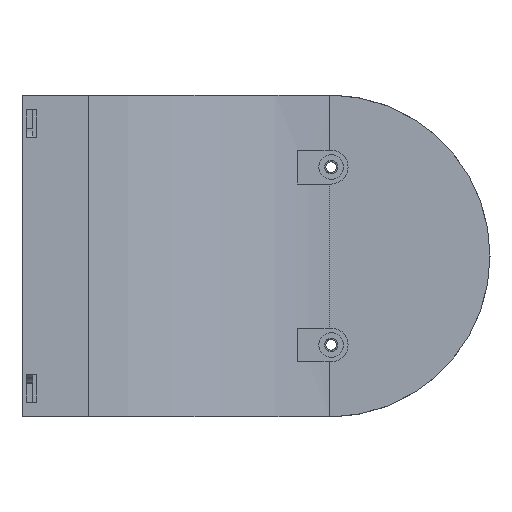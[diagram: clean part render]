
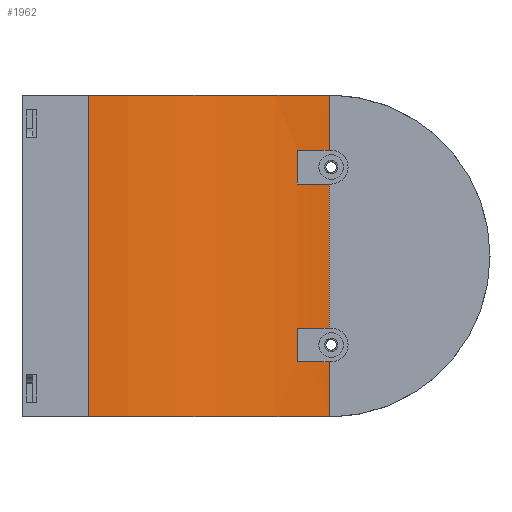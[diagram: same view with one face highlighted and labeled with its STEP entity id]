
A CAD part, front view. The second image highlights one B-rep face of the part: STEP entity #1962.
In plain terms, the highlighted cylindrical face has radius 77.442 mm (diameter 154.885 mm), a partial arc.
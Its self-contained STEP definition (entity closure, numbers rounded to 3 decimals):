
#176 = EDGE_CURVE ( 'NONE', #6173, #6765, #853, .T. ) ;
#847 = CARTESIAN_POINT ( 'NONE',  ( 73.5, -93.942, 17. ) ) ;
#853 = CIRCLE ( 'NONE', #902, 77.442 ) ;
#894 = DIRECTION ( 'NONE',  ( 1., 0., 0. ) ) ;
#895 = DIRECTION ( 'NONE',  ( 0., 0., 1. ) ) ;
#902 = AXIS2_PLACEMENT_3D ( 'NONE', #847, #895, #894 ) ;
#1377 = VERTEX_POINT ( 'NONE', #2527 ) ;
#1661 = EDGE_CURVE ( 'NONE', #2013, #1377, #2517, .T. ) ;
#1685 = CYLINDRICAL_SURFACE ( 'NONE', #1690, 77.442 ) ;
#1689 = CARTESIAN_POINT ( 'NONE',  ( 73.5, -93.942, -38. ) ) ;
#1690 = AXIS2_PLACEMENT_3D ( 'NONE', #1689, #1940, #1926 ) ;
#1802 = VERTEX_POINT ( 'NONE', #2573 ) ;
#1926 = DIRECTION ( 'NONE',  ( 1., 0., 0. ) ) ;
#1940 = DIRECTION ( 'NONE',  ( 0., 0., 1. ) ) ;
#1949 = ORIENTED_EDGE ( 'NONE', *, *, #176, .T. ) ;
#1953 = EDGE_CURVE ( 'NONE', #1957, #2013, #2621, .T. ) ;
#1956 = EDGE_CURVE ( 'NONE', #1958, #1957, #2614, .T. ) ;
#1957 = VERTEX_POINT ( 'NONE', #2574 ) ;
#1958 = VERTEX_POINT ( 'NONE', #2605 ) ;
#1959 = VERTEX_POINT ( 'NONE', #2609 ) ;
#1960 = ORIENTED_EDGE ( 'NONE', *, *, #1984, .T. ) ;
#1961 = ORIENTED_EDGE ( 'NONE', *, *, #1963, .T. ) ;
#1962 = ADVANCED_FACE ( 'NONE', ( #2624 ), #1685, .F. ) ;
#1963 = EDGE_CURVE ( 'NONE', #1377, #6173, #2332, .T. ) ;
#1964 = EDGE_LOOP ( 'NONE', ( #1973, #1968, #1961, #1949, #1983, #1971, #1960, #1980, #1965, #1981, #1974, #1978 ) ) ;
#1965 = ORIENTED_EDGE ( 'NONE', *, *, #1977, .F. ) ;
#1968 = ORIENTED_EDGE ( 'NONE', *, *, #1661, .T. ) ;
#1971 = ORIENTED_EDGE ( 'NONE', *, *, #6184, .T. ) ;
#1973 = ORIENTED_EDGE ( 'NONE', *, *, #1953, .T. ) ;
#1974 = ORIENTED_EDGE ( 'NONE', *, *, #6604, .T. ) ;
#1977 = EDGE_CURVE ( 'NONE', #1989, #1802, #2686, .T. ) ;
#1978 = ORIENTED_EDGE ( 'NONE', *, *, #1956, .T. ) ;
#1979 = EDGE_CURVE ( 'NONE', #1989, #1959, #2680, .T. ) ;
#1980 = ORIENTED_EDGE ( 'NONE', *, *, #1990, .F. ) ;
#1981 = ORIENTED_EDGE ( 'NONE', *, *, #1979, .T. ) ;
#1983 = ORIENTED_EDGE ( 'NONE', *, *, #2470, .T. ) ;
#1984 = EDGE_CURVE ( 'NONE', #6186, #1988, #2683, .T. ) ;
#1988 = VERTEX_POINT ( 'NONE', #2630 ) ;
#1989 = VERTEX_POINT ( 'NONE', #2719 ) ;
#1990 = EDGE_CURVE ( 'NONE', #1802, #1988, #2714, .T. ) ;
#2013 = VERTEX_POINT ( 'NONE', #2773 ) ;
#2329 = DIRECTION ( 'NONE',  ( 0., 0., 1. ) ) ;
#2331 = CARTESIAN_POINT ( 'NONE',  ( 72.544, -16.506, -38. ) ) ;
#2332 = LINE ( 'NONE', #2331, #2337 ) ;
#2337 = VECTOR ( 'NONE', #2329, 1000. ) ;
#2470 = EDGE_CURVE ( 'NONE', #6765, #6767, #3720, .T. ) ;
#2517 = CIRCLE ( 'NONE', #2585, 77.442 ) ;
#2527 = CARTESIAN_POINT ( 'NONE',  ( 72.544, -16.506, -17. ) ) ;
#2573 = CARTESIAN_POINT ( 'NONE',  ( 15.612, -42.5, 38. ) ) ;
#2574 = CARTESIAN_POINT ( 'NONE',  ( 65., -16.968, -25. ) ) ;
#2578 = DIRECTION ( 'NONE',  ( -1., 0., 0. ) ) ;
#2579 = DIRECTION ( 'NONE',  ( 0., 0., -1. ) ) ;
#2580 = CARTESIAN_POINT ( 'NONE',  ( 73.5, -93.942, -17. ) ) ;
#2585 = AXIS2_PLACEMENT_3D ( 'NONE', #2580, #2579, #2578 ) ;
#2605 = CARTESIAN_POINT ( 'NONE',  ( 72.544, -16.506, -25. ) ) ;
#2607 = DIRECTION ( 'NONE',  ( 1., 0., 0. ) ) ;
#2608 = DIRECTION ( 'NONE',  ( 0., 0., 1. ) ) ;
#2609 = CARTESIAN_POINT ( 'NONE',  ( 72.544, -16.506, -38. ) ) ;
#2611 = AXIS2_PLACEMENT_3D ( 'NONE', #2617, #2608, #2607 ) ;
#2612 = DIRECTION ( 'NONE',  ( 0., 0., 1. ) ) ;
#2613 = VECTOR ( 'NONE', #2612, 1000. ) ;
#2614 = CIRCLE ( 'NONE', #2611, 77.442 ) ;
#2617 = CARTESIAN_POINT ( 'NONE',  ( 73.5, -93.942, -25. ) ) ;
#2620 = CARTESIAN_POINT ( 'NONE',  ( 65., -16.968, -38. ) ) ;
#2621 = LINE ( 'NONE', #2620, #2613 ) ;
#2624 = FACE_OUTER_BOUND ( 'NONE', #1964, .T. ) ;
#2630 = CARTESIAN_POINT ( 'NONE',  ( 72.544, -16.506, 38. ) ) ;
#2631 = AXIS2_PLACEMENT_3D ( 'NONE', #2677, #2676, #2675 ) ;
#2655 = VECTOR ( 'NONE', #2687, 1000. ) ;
#2670 = DIRECTION ( 'NONE',  ( 0., 0., 1. ) ) ;
#2671 = VECTOR ( 'NONE', #2670, 1000. ) ;
#2675 = DIRECTION ( 'NONE',  ( 1., 0., 0. ) ) ;
#2676 = DIRECTION ( 'NONE',  ( 0., 0., -1. ) ) ;
#2677 = CARTESIAN_POINT ( 'NONE',  ( 73.5, -93.942, -38. ) ) ;
#2680 = CIRCLE ( 'NONE', #2631, 77.442 ) ;
#2682 = CARTESIAN_POINT ( 'NONE',  ( 72.544, -16.506, -38. ) ) ;
#2683 = LINE ( 'NONE', #2682, #2671 ) ;
#2685 = CARTESIAN_POINT ( 'NONE',  ( 15.612, -42.5, -38. ) ) ;
#2686 = LINE ( 'NONE', #2685, #2655 ) ;
#2687 = DIRECTION ( 'NONE',  ( 0., 0., 1. ) ) ;
#2705 = DIRECTION ( 'NONE',  ( 1., 0., 0. ) ) ;
#2706 = DIRECTION ( 'NONE',  ( 0., 0., -1. ) ) ;
#2707 = CARTESIAN_POINT ( 'NONE',  ( 73.5, -93.942, 38. ) ) ;
#2708 = AXIS2_PLACEMENT_3D ( 'NONE', #2707, #2706, #2705 ) ;
#2714 = CIRCLE ( 'NONE', #2708, 77.442 ) ;
#2719 = CARTESIAN_POINT ( 'NONE',  ( 15.612, -42.5, -38. ) ) ;
#2773 = CARTESIAN_POINT ( 'NONE',  ( 65., -16.968, -17. ) ) ;
#3716 = DIRECTION ( 'NONE',  ( 0., 0., 1. ) ) ;
#3717 = VECTOR ( 'NONE', #3716, 1000. ) ;
#3719 = CARTESIAN_POINT ( 'NONE',  ( 65., -16.968, -38. ) ) ;
#3720 = LINE ( 'NONE', #3719, #3717 ) ;
#3857 = CARTESIAN_POINT ( 'NONE',  ( 72.544, -16.506, 17. ) ) ;
#3859 = CIRCLE ( 'NONE', #3867, 77.442 ) ;
#3867 = AXIS2_PLACEMENT_3D ( 'NONE', #3877, #3916, #3915 ) ;
#3868 = CARTESIAN_POINT ( 'NONE',  ( 72.544, -16.506, 25. ) ) ;
#3877 = CARTESIAN_POINT ( 'NONE',  ( 73.5, -93.942, 25. ) ) ;
#3915 = DIRECTION ( 'NONE',  ( -1., 0., 0. ) ) ;
#3916 = DIRECTION ( 'NONE',  ( 0., 0., -1. ) ) ;
#5107 = DIRECTION ( 'NONE',  ( 0., 0., 1. ) ) ;
#5108 = VECTOR ( 'NONE', #5107, 1000. ) ;
#5115 = CARTESIAN_POINT ( 'NONE',  ( 72.544, -16.506, -38. ) ) ;
#5116 = LINE ( 'NONE', #5115, #5108 ) ;
#5561 = CARTESIAN_POINT ( 'NONE',  ( 65., -16.968, 25. ) ) ;
#5576 = CARTESIAN_POINT ( 'NONE',  ( 65., -16.968, 17. ) ) ;
#6173 = VERTEX_POINT ( 'NONE', #3857 ) ;
#6184 = EDGE_CURVE ( 'NONE', #6767, #6186, #3859, .T. ) ;
#6186 = VERTEX_POINT ( 'NONE', #3868 ) ;
#6604 = EDGE_CURVE ( 'NONE', #1959, #1958, #5116, .T. ) ;
#6765 = VERTEX_POINT ( 'NONE', #5576 ) ;
#6767 = VERTEX_POINT ( 'NONE', #5561 ) ;
